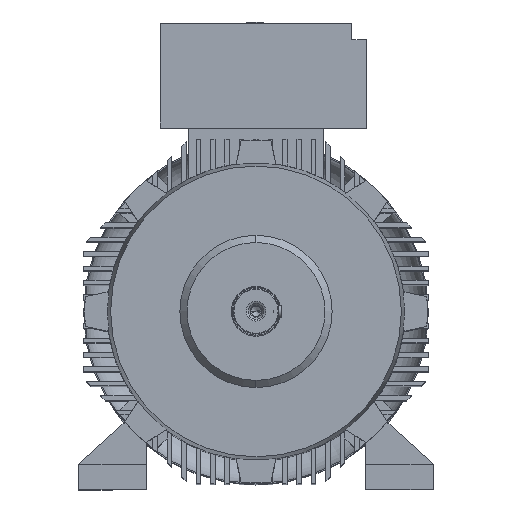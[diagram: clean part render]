
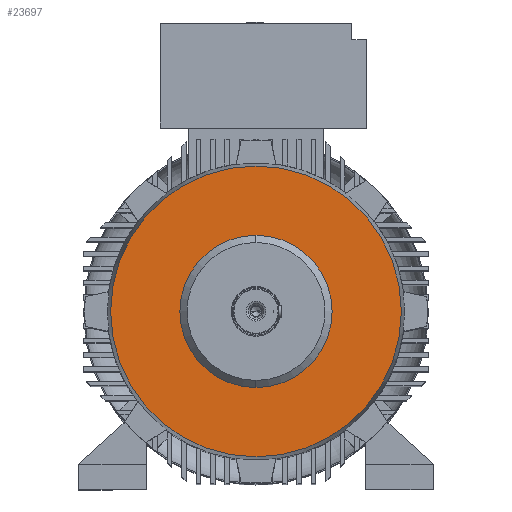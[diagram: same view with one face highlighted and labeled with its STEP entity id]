
A CAD part, top view. The second image highlights one B-rep face of the part: STEP entity #23697.
In plain terms, the highlighted planar face has unit normal (0, 0, 1).
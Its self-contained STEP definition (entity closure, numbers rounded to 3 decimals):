
#859 = DIRECTION ( 'NONE',  ( 0., -1., 0. ) ) ;
#3513 = AXIS2_PLACEMENT_3D ( 'NONE', #24685, #12500, #12334 ) ;
#3730 = AXIS2_PLACEMENT_3D ( 'NONE', #20341, #10169, #18072 ) ;
#4050 = CARTESIAN_POINT ( 'NONE',  ( 257.574, 0., 455.4 ) ) ;
#4082 = EDGE_LOOP ( 'NONE', ( #17917, #12794 ) ) ;
#4139 = VERTEX_POINT ( 'NONE', #14728 ) ;
#5089 = CARTESIAN_POINT ( 'NONE',  ( 0., 0., 455.4 ) ) ;
#5680 = FACE_BOUND ( 'NONE', #14138, .T. ) ;
#5818 = VERTEX_POINT ( 'NONE', #4050 ) ;
#6750 = ORIENTED_EDGE ( 'NONE', *, *, #9971, .T. ) ;
#7336 = AXIS2_PLACEMENT_3D ( 'NONE', #11341, #9327, #21547 ) ;
#8573 = AXIS2_PLACEMENT_3D ( 'NONE', #10689, #22860, #859 ) ;
#9164 = DIRECTION ( 'NONE',  ( 0., -1., 0. ) ) ;
#9327 = DIRECTION ( 'NONE',  ( 0., 0., -1. ) ) ;
#9345 = DIRECTION ( 'NONE',  ( 0., 0., 1. ) ) ;
#9971 = EDGE_CURVE ( 'NONE', #21604, #16527, #20700, .T. ) ;
#10169 = DIRECTION ( 'NONE',  ( 0., 0., -1. ) ) ;
#10689 = CARTESIAN_POINT ( 'NONE',  ( 0., 0., 455.4 ) ) ;
#11341 = CARTESIAN_POINT ( 'NONE',  ( 0., 0., 455.4 ) ) ;
#11594 = CIRCLE ( 'NONE', #20418, 257.574 ) ;
#12334 = DIRECTION ( 'NONE',  ( 1., 0., 0. ) ) ;
#12500 = DIRECTION ( 'NONE',  ( 0., 0., -1. ) ) ;
#12794 = ORIENTED_EDGE ( 'NONE', *, *, #14840, .T. ) ;
#13415 = ORIENTED_EDGE ( 'NONE', *, *, #13942, .T. ) ;
#13942 = EDGE_CURVE ( 'NONE', #16527, #21604, #18945, .T. ) ;
#14138 = EDGE_LOOP ( 'NONE', ( #13415, #6750 ) ) ;
#14635 = PLANE ( 'NONE',  #3513 ) ;
#14728 = CARTESIAN_POINT ( 'NONE',  ( -257.574, 0., 455.4 ) ) ;
#14840 = EDGE_CURVE ( 'NONE', #4139, #5818, #11594, .T. ) ;
#15416 = CARTESIAN_POINT ( 'NONE',  ( 0., 134.8, 455.4 ) ) ;
#15498 = FACE_OUTER_BOUND ( 'NONE', #4082, .T. ) ;
#16527 = VERTEX_POINT ( 'NONE', #26098 ) ;
#17917 = ORIENTED_EDGE ( 'NONE', *, *, #23092, .T. ) ;
#18072 = DIRECTION ( 'NONE',  ( 0., -1., 0. ) ) ;
#18945 = CIRCLE ( 'NONE', #3730, 134.8 ) ;
#19659 = CIRCLE ( 'NONE', #8573, 257.574 ) ;
#20341 = CARTESIAN_POINT ( 'NONE',  ( 0., 0., 455.4 ) ) ;
#20418 = AXIS2_PLACEMENT_3D ( 'NONE', #5089, #9345, #9164 ) ;
#20700 = CIRCLE ( 'NONE', #7336, 134.8 ) ;
#21547 = DIRECTION ( 'NONE',  ( 0., -1., 0. ) ) ;
#21604 = VERTEX_POINT ( 'NONE', #15416 ) ;
#22860 = DIRECTION ( 'NONE',  ( 0., 0., 1. ) ) ;
#23092 = EDGE_CURVE ( 'NONE', #5818, #4139, #19659, .T. ) ;
#23697 = ADVANCED_FACE ( 'NONE', ( #15498, #5680 ), #14635, .F. ) ;
#24685 = CARTESIAN_POINT ( 'NONE',  ( 0., 257.574, 455.4 ) ) ;
#26098 = CARTESIAN_POINT ( 'NONE',  ( 0., -134.8, 455.4 ) ) ;
